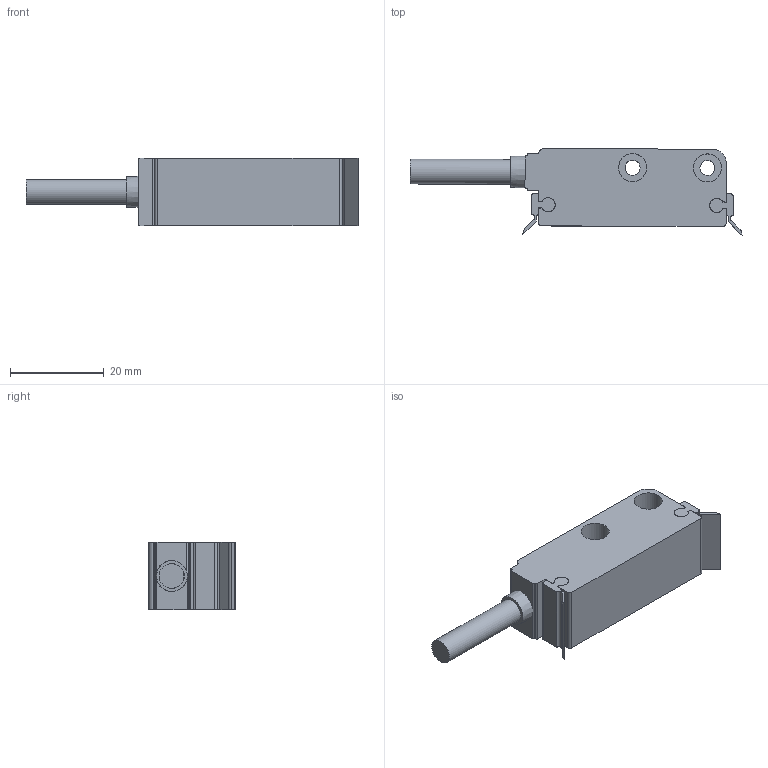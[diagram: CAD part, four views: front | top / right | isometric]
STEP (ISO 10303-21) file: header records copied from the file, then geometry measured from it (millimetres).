
FILE_DESCRIPTION(/* description */ ('','CAx-IF Rec.Pracs.---Representation and Presentation of Product Manufacturing Information (PMI)---4.0---2014-10-13'),/* implementation_level */ '2;1');
FILE_NAME(/* name */ 'C:\DESKTOP\홈페이지용 엔코더 3D 데이타 및 사진관련 자료\Encoder\Linear Encoder\LKE51-1000-2-V-L-5\LKE51-1000-2-V-L-5.stp',/* time_stamp */ '2023-08-02T12:15:59+09:00',/* author */ ('hnckhn'),/* organization */ (''),/* preprocessor_version */ 'ST-DEVELOPER v18.1',/* originating_system */ 'Autodesk Inventor 2021',/* authorisation */ '');
FILE_SCHEMA (('AP242_MANAGED_MODEL_BASED_3D_ENGINEERING_MIM_LF { 1 0 10303 442 1 1 4 }'));
Length unit declared in the file: millimetre
Products named in the file (6): LKE51-1000-2-V-L-5; Base1; 솔리드2; 솔리드5; 솔리드4; 솔리드3
Assembly tree (5 placements, depth 2):
  LKE51-1000-2-V-L-5
    Base1
    솔리드2
    솔리드5
    솔리드4
    솔리드3
Bounding box: 70.88 x 18.52 x 14.5 mm (x, y, z)
Volume: 5234.7 mm3; surface area: 7762.7 mm2
Topology: 5 solids, 5 shells, 223 faces, 617 edges, 413 vertices
Faces by surface type: plane 150, cylinder 71, cone 1, torus 1
Full cylindrical faces by diameter (mm): 3 x1, 3.2 x2, 5.304 x1, 6 x2, 8.2 x1
Entity records: 7872 total; most frequent: DIRECTION 1379, CARTESIAN_POINT 1355, ORIENTED_EDGE 1234, EDGE_CURVE 617, AXIS2_PLACEMENT_3D 465, LINE 449, VECTOR 449, VERTEX_POINT 413
